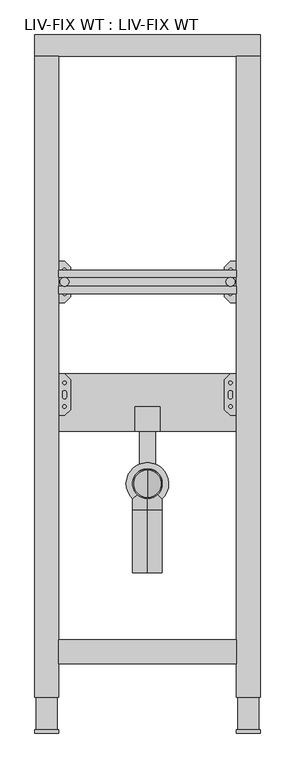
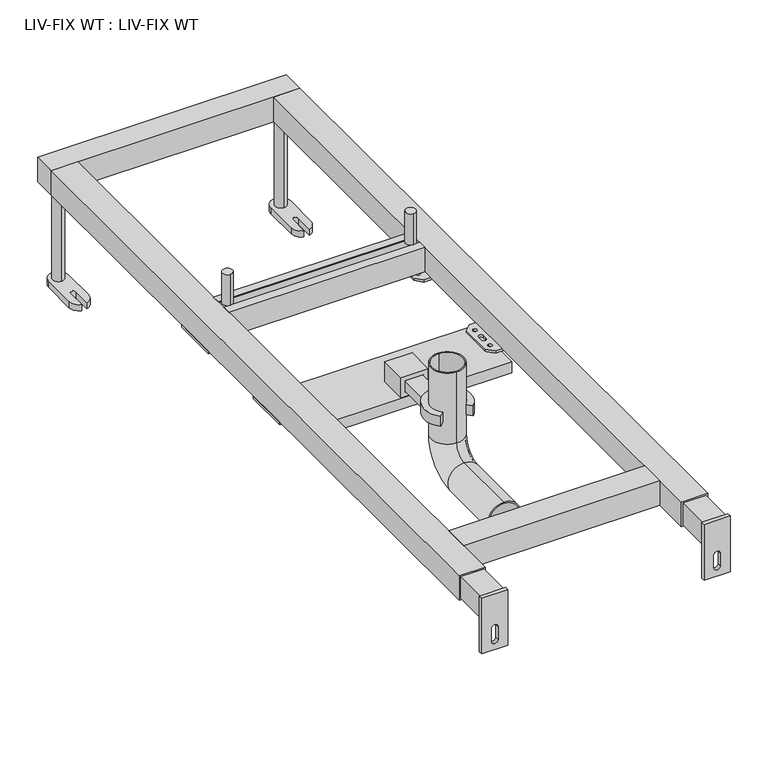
"""IFC4 building model written with IfcOpenShell, lengths in millimetres: flow terminal geometry, LIV-FIX WT : LIV-FIX WT."""

from ifc_helpers import new_model, si_unit, point, frame, frame_2d, origin, origin_with_axes, place, context, project, spatial, polyline, circle_curve, ellipse_curve, trimmed, segment, composite_curve, outline, extrude, source, transform, mapped, element, save
from ifc_brep_helpers import plane_surface, cylinder_surface, revolved_surface, advanced_brep


def liv_fix_wt_liv_fix_wt_083b9d29(model_context):
    return source(origin(), model_context, "Body", "SolidModel", [
        extrude(outline(composite_curve([segment(trimmed(circle_curve(frame_2d((-140.0, 760.0)), 7.5154833), [point((-140.0, 767.5154833))], [point((-140.0, 752.4845167))], False, "CARTESIAN"), True, "CONTINUOUS"), segment(trimmed(circle_curve(frame_2d((-140.0, 760.0)), 7.5154833), [point((-140.0, 752.4845167))], [point((-140.0, 767.5154833))], False, "CARTESIAN"), True, "CONTINUOUS")], self_intersect=False)), frame((0.0, 0.0, 200.0), z_axis=(0.0, 0.0, 1.0), x_axis=(1.0, 0.0, 0.0)), (0.0, 0.0, 1.0), 50.0),
        extrude(outline(composite_curve([segment(trimmed(circle_curve(frame_2d((140.0, 760.0)), 7.5154833), [point((140.0, 767.5154833))], [point((140.0, 752.4845167))], False, "CARTESIAN"), True, "CONTINUOUS"), segment(trimmed(circle_curve(frame_2d((140.0, 760.0)), 7.5154833), [point((140.0, 752.4845167))], [point((140.0, 767.5154833))], False, "CARTESIAN"), True, "CONTINUOUS")], self_intersect=False)), frame((0.0, 0.0, 200.0), z_axis=(0.0, 0.0, 1.0), x_axis=(1.0, 0.0, 0.0)), (0.0, 0.0, 1.0), 50.0),
        extrude(outline(polyline([(740.0, 200.0), (752.4845167, 200.0), (752.4845167, 198.5), (741.5, 198.5), (741.5, 161.5), (778.5, 161.5), (778.5, 198.5), (767.5154833, 198.5), (767.5154833, 200.0), (780.0, 200.0), (780.0, 160.0), (740.0, 160.0), (740.0, 200.0)])), frame((-150.0, 0.0, 0.0), z_axis=(1.0, 0.0, 0.0), x_axis=(0.0, 1.0, 0.0)), (0.0, 0.0, 1.0), 300.0),
        extrude(outline(polyline([(140.0, 725.0), (130.0, 735.0), (130.0, 785.0), (140.0, 795.0), (190.0, 795.0), (190.0, 725.0), (140.0, 725.0)]), holes=[composite_curve([segment(trimmed(circle_curve(frame_2d((175.0, 760.0)), 4.5), [point((175.0, 755.5))], [point((175.0, 764.5))], True, "CARTESIAN"), True, "CONTINUOUS"), segment(trimmed(circle_curve(frame_2d((175.0, 760.0)), 4.5), [point((175.0, 764.5))], [point((175.0, 755.5))], True, "CARTESIAN"), True, "CONTINUOUS")], self_intersect=False), composite_curve([segment(trimmed(circle_curve(frame_2d((175.0, 780.0)), 4.5), [point((175.0, 775.5))], [point((175.0, 784.5))], True, "CARTESIAN"), True, "CONTINUOUS"), segment(trimmed(circle_curve(frame_2d((175.0, 780.0)), 4.5), [point((175.0, 784.5))], [point((175.0, 775.5))], True, "CARTESIAN"), True, "CONTINUOUS")], self_intersect=False), composite_curve([segment(trimmed(circle_curve(frame_2d((175.0, 740.0)), 4.5), [point((175.0, 735.5))], [point((175.0, 744.5))], True, "CARTESIAN"), True, "CONTINUOUS"), segment(trimmed(circle_curve(frame_2d((175.0, 740.0)), 4.5), [point((175.0, 744.5))], [point((175.0, 735.5))], True, "CARTESIAN"), True, "CONTINUOUS")], self_intersect=False), composite_curve([segment(trimmed(circle_curve(frame_2d((140.0, 780.0)), 2.9795218), [point((140.0, 777.0204782))], [point((140.0, 782.9795218))], True, "CARTESIAN"), True, "CONTINUOUS"), segment(trimmed(circle_curve(frame_2d((140.0, 780.0)), 2.9795218), [point((140.0, 782.9795218))], [point((140.0, 777.0204782))], True, "CARTESIAN"), True, "CONTINUOUS")], self_intersect=False), composite_curve([segment(trimmed(circle_curve(frame_2d((140.0, 740.0)), 2.9795218), [point((140.0, 737.0204782))], [point((140.0, 742.9795218))], True, "CARTESIAN"), True, "CONTINUOUS"), segment(trimmed(circle_curve(frame_2d((140.0, 740.0)), 2.9795218), [point((140.0, 742.9795218))], [point((140.0, 737.0204782))], True, "CARTESIAN"), True, "CONTINUOUS")], self_intersect=False), composite_curve([segment(trimmed(circle_curve(frame_2d((140.0, 763.5)), 3.5), [point((143.5, 763.5))], [point((136.5, 763.5))], True, "CARTESIAN"), True, "CONTINUOUS"), segment(polyline([(136.5, 763.5), (136.5, 756.5)]), True, "CONTINUOUS"), segment(trimmed(circle_curve(frame_2d((140.0, 756.5)), 3.5), [point((136.5, 756.5))], [point((143.5, 756.5))], True, "CARTESIAN"), True, "CONTINUOUS"), segment(polyline([(143.5, 756.5), (143.5, 763.5)]), True, "CONTINUOUS")], self_intersect=False)]), frame((0.0, 0.0, 156.0), z_axis=(0.0, 0.0, 1.0), x_axis=(1.0, 0.0, 0.0)), (0.0, 0.0, 1.0), 4.0),
        extrude(outline(polyline([(-140.0, 725.0), (-190.0, 725.0), (-190.0, 795.0), (-140.0, 795.0), (-130.0, 785.0), (-130.0, 735.0), (-140.0, 725.0)]), holes=[composite_curve([segment(trimmed(circle_curve(frame_2d((-175.0, 760.0)), 4.5), [point((-175.0, 755.5))], [point((-175.0, 764.5))], True, "CARTESIAN"), True, "CONTINUOUS"), segment(trimmed(circle_curve(frame_2d((-175.0, 760.0)), 4.5), [point((-175.0, 764.5))], [point((-175.0, 755.5))], True, "CARTESIAN"), True, "CONTINUOUS")], self_intersect=False), composite_curve([segment(trimmed(circle_curve(frame_2d((-175.0, 780.0)), 4.5), [point((-175.0, 775.5))], [point((-175.0, 784.5))], True, "CARTESIAN"), True, "CONTINUOUS"), segment(trimmed(circle_curve(frame_2d((-175.0, 780.0)), 4.5), [point((-175.0, 784.5))], [point((-175.0, 775.5))], True, "CARTESIAN"), True, "CONTINUOUS")], self_intersect=False), composite_curve([segment(trimmed(circle_curve(frame_2d((-175.0, 740.0)), 4.5), [point((-175.0, 735.5))], [point((-175.0, 744.5))], True, "CARTESIAN"), True, "CONTINUOUS"), segment(trimmed(circle_curve(frame_2d((-175.0, 740.0)), 4.5), [point((-175.0, 744.5))], [point((-175.0, 735.5))], True, "CARTESIAN"), True, "CONTINUOUS")], self_intersect=False), composite_curve([segment(trimmed(circle_curve(frame_2d((-140.0, 780.0)), 2.9795218), [point((-140.0, 777.0204782))], [point((-140.0, 782.9795218))], True, "CARTESIAN"), True, "CONTINUOUS"), segment(trimmed(circle_curve(frame_2d((-140.0, 780.0)), 2.9795218), [point((-140.0, 782.9795218))], [point((-140.0, 777.0204782))], True, "CARTESIAN"), True, "CONTINUOUS")], self_intersect=False), composite_curve([segment(trimmed(circle_curve(frame_2d((-140.0, 740.0)), 2.9795218), [point((-140.0, 737.0204782))], [point((-140.0, 742.9795218))], True, "CARTESIAN"), True, "CONTINUOUS"), segment(trimmed(circle_curve(frame_2d((-140.0, 740.0)), 2.9795218), [point((-140.0, 742.9795218))], [point((-140.0, 737.0204782))], True, "CARTESIAN"), True, "CONTINUOUS")], self_intersect=False), composite_curve([segment(polyline([(-143.5, 763.5), (-143.5, 756.5)]), True, "CONTINUOUS"), segment(trimmed(circle_curve(frame_2d((-140.0, 756.5)), 3.5), [point((-143.5, 756.5))], [point((-136.5, 756.5))], True, "CARTESIAN"), True, "CONTINUOUS"), segment(polyline([(-136.5, 756.5), (-136.5, 763.5)]), True, "CONTINUOUS"), segment(trimmed(circle_curve(frame_2d((-140.0, 763.5)), 3.5), [point((-136.5, 763.5))], [point((-143.5, 763.5))], True, "CARTESIAN"), True, "CONTINUOUS")], self_intersect=False)]), frame((0.0, 0.0, 156.0), z_axis=(0.0, 0.0, 1.0), x_axis=(1.0, 0.0, 0.0)), (0.0, 0.0, 1.0), 4.0),
        advanced_brep(
        [(0.0, 270.0, 75.0), (0.0, 270.0, 125.0), (0.0, 270.0, 77.0), (0.0, 270.0, 123.0), (0.0, 375.0, 75.0), (0.0, 375.0, 125.0), (0.0, 445.0, 260.0), (0.0, 395.0, 260.0), (0.0, 443.0, 260.0), (0.0, 397.0, 260.0), (0.0, 395.0, 145.0), (0.0, 445.0, 145.0), (0.0, 375.0, 77.0), (0.0, 375.0, 123.0), (0.0, 397.0, 145.0), (0.0, 443.0, 145.0)],
        [
            (0, 1, circle_curve(frame((0.0, 270.0, 100.0), z_axis=(0.0, -1.0, 0.0), x_axis=(0.0, 0.0, 1.0)), 25.0)),
            (1, 0, circle_curve(frame((0.0, 270.0, 100.0), z_axis=(0.0, -1.0, 0.0), x_axis=(0.0, 0.0, 1.0)), 25.0)),
            (2, 3, circle_curve(frame((0.0, 270.0, 100.0), z_axis=(0.0, 1.0, 0.0), x_axis=(0.0, 0.0, 1.0)), 23.0)),
            (3, 2, circle_curve(frame((0.0, 270.0, 100.0), z_axis=(0.0, 1.0, 0.0), x_axis=(0.0, 0.0, 1.0)), 23.0)),
            (0, 4),
            (4, 5, circle_curve(frame((0.0, 375.0, 100.0), z_axis=(0.0, -1.0, 0.0), x_axis=(0.0, 0.0, 1.0)), 25.0)),
            (5, 1),
            (5, 4, circle_curve(frame((0.0, 375.0, 100.0), z_axis=(0.0, -1.0, 0.0), x_axis=(0.0, 0.0, 1.0)), 25.0)),
            (6, 7, circle_curve(frame((0.0, 420.0, 260.0), z_axis=(0.0, 0.0, 1.0), x_axis=(0.0, -1.0, 0.0)), 25.0)),
            (7, 6, circle_curve(frame((0.0, 420.0, 260.0), z_axis=(0.0, 0.0, 1.0), x_axis=(0.0, -1.0, 0.0)), 25.0)),
            (8, 9, circle_curve(frame((0.0, 420.0, 260.0), z_axis=(0.0, 0.0, -1.0), x_axis=(0.0, -1.0, 0.0)), 23.0)),
            (9, 8, circle_curve(frame((0.0, 420.0, 260.0), z_axis=(0.0, 0.0, -1.0), x_axis=(0.0, -1.0, 0.0)), 23.0)),
            (10, 11, circle_curve(frame((0.0, 420.0, 145.0), z_axis=(0.0, 0.0, 1.0), x_axis=(0.0, -1.0, 0.0)), 25.0)),
            (11, 6),
            (7, 10),
            (11, 10, circle_curve(frame((0.0, 420.0, 145.0), z_axis=(0.0, 0.0, 1.0), x_axis=(0.0, -1.0, 0.0)), 25.0)),
            (10, 5, circle_curve(frame((0.0, 375.0, 145.0), z_axis=(-1.0, 0.0, 0.0), x_axis=(0.0, 0.0, -1.0)), 20.0)),
            (4, 11, circle_curve(frame((0.0, 375.0, 145.0), z_axis=(1.0, 0.0, 0.0), x_axis=(0.0, 0.0, -1.0)), 70.0)),
            (2, 12),
            (12, 13, circle_curve(frame((0.0, 375.0, 100.0), z_axis=(0.0, 1.0, 0.0), x_axis=(0.0, 0.0, 1.0)), 23.0)),
            (13, 3),
            (13, 12, circle_curve(frame((0.0, 375.0, 100.0), z_axis=(0.0, 1.0, 0.0), x_axis=(0.0, 0.0, 1.0)), 23.0)),
            (14, 13, circle_curve(frame((0.0, 375.0, 145.0), z_axis=(-1.0, 0.0, 0.0), x_axis=(0.0, 0.0, -1.0)), 22.0)),
            (12, 15, circle_curve(frame((0.0, 375.0, 145.0), z_axis=(1.0, 0.0, 0.0), x_axis=(0.0, 0.0, -1.0)), 68.0)),
            (15, 14, circle_curve(frame((0.0, 420.0, 145.0), z_axis=(0.0, 0.0, 1.0), x_axis=(0.0, -1.0, 0.0)), 23.0)),
            (14, 15, circle_curve(frame((0.0, 420.0, 145.0), z_axis=(0.0, 0.0, 1.0), x_axis=(0.0, -1.0, 0.0)), 23.0)),
            (15, 8),
            (9, 14),
        ],
        [
            plane_surface(frame((0.0, 270.0, 100.0), z_axis=(0.0, -1.0, 0.0), x_axis=(1.0, 0.0, 0.0))),
            cylinder_surface(frame((0.0, 270.0, 100.0), z_axis=(0.0, -1.0, 0.0), x_axis=(0.0, 0.0, 1.0)), 25.0),
            plane_surface(frame((0.0, 420.0, 260.0), z_axis=(0.0, 0.0, 1.0), x_axis=(1.0, 0.0, 0.0))),
            cylinder_surface(frame((0.0, 420.0, 145.0), z_axis=(0.0, 0.0, -1.0), x_axis=(0.0, -1.0, 0.0)), 25.0),
            revolved_surface(trimmed(ellipse_curve(frame((0.0, 375.0, 100.0), z_axis=(0.0, -1.0, 0.0), x_axis=(0.0, 0.0, 1.0)), 25.0, 25.0), [point((0.0, 375.0, 75.0))], [point((0.0, 375.0, 125.0))], True, "CARTESIAN"), (0.0, 375.0, 145.0), (1.0, 0.0, 0.0)),
            revolved_surface(trimmed(ellipse_curve(frame((0.0, 375.0, 100.0), z_axis=(0.0, -1.0, 0.0), x_axis=(0.0, 0.0, 1.0)), 25.0, 25.0), [point((0.0, 375.0, 125.0))], [point((0.0, 375.0, 75.0))], True, "CARTESIAN"), (0.0, 375.0, 145.0), (1.0, 0.0, 0.0)),
            revolved_surface(polyline([(0.0, 375.0, 123.0), (0.0, 270.0, 123.0)]), (0.0, 270.0, 100.0), (0.0, 1.0, 0.0)),
            revolved_surface(trimmed(ellipse_curve(frame((0.0, 375.0, 100.0), z_axis=(0.0, 1.0, 0.0), x_axis=(0.0, 0.0, 1.0)), 23.0, 23.0), [point((0.0, 375.0, 77.0))], [point((0.0, 375.0, 123.0))], True, "CARTESIAN"), (0.0, 375.0, 145.0), (1.0, 0.0, 0.0)),
            revolved_surface(trimmed(ellipse_curve(frame((0.0, 375.0, 100.0), z_axis=(0.0, 1.0, 0.0), x_axis=(0.0, 0.0, 1.0)), 23.0, 23.0), [point((0.0, 375.0, 123.0))], [point((0.0, 375.0, 77.0))], True, "CARTESIAN"), (0.0, 375.0, 145.0), (1.0, 0.0, 0.0)),
            revolved_surface(polyline([(0.0, 397.0, 260.0), (0.0, 397.0, 145.0)]), (0.0, 420.0, 145.0), (0.0, 0.0, 1.0)),
        ],
        [
            (0, [[1, 2], [3, 4]]),
            (1, [[-1, 5, 6, 7]]),
            (1, [[-2, -7, 8, -5]]),
            (2, [[9, 10], [11, 12]]),
            (3, [[13, 14, -10, 15]]),
            (3, [[16, -15, -9, -14]]),
            (4, [[17, -6, 18, -13]]),
            (5, [[-18, -8, -17, -16]]),
            (6, [[-3, 19, 20, 21]]),
            (6, [[-4, -21, 22, -19]]),
            (7, [[23, -20, 24, 25]]),
            (8, [[-24, -22, -23, 26]]),
            (9, [[-25, 27, -12, 28]]),
            (9, [[-26, -28, -11, -27]]),
        ],
    ),
        extrude(outline(polyline([(149.0, 508.0), (-149.0, 508.0), (-149.0, 605.0), (149.0, 605.0), (149.0, 508.0)])), frame((0.0, 0.0, 138.0), z_axis=(0.0, 0.0, 1.0), x_axis=(1.0, 0.0, 0.0)), (0.0, 0.0, 1.0), 18.0),
        extrude(outline(polyline([(140.0, 535.0), (130.0, 545.0), (130.0, 595.0), (140.0, 605.0), (190.0, 605.0), (190.0, 535.0), (140.0, 535.0)]), holes=[composite_curve([segment(trimmed(circle_curve(frame_2d((175.0, 570.0)), 4.5), [point((175.0, 565.5))], [point((175.0, 574.5))], True, "CARTESIAN"), True, "CONTINUOUS"), segment(trimmed(circle_curve(frame_2d((175.0, 570.0)), 4.5), [point((175.0, 574.5))], [point((175.0, 565.5))], True, "CARTESIAN"), True, "CONTINUOUS")], self_intersect=False), composite_curve([segment(trimmed(circle_curve(frame_2d((175.0, 590.0)), 4.5), [point((175.0, 585.5))], [point((175.0, 594.5))], True, "CARTESIAN"), True, "CONTINUOUS"), segment(trimmed(circle_curve(frame_2d((175.0, 590.0)), 4.5), [point((175.0, 594.5))], [point((175.0, 585.5))], True, "CARTESIAN"), True, "CONTINUOUS")], self_intersect=False), composite_curve([segment(trimmed(circle_curve(frame_2d((175.0, 550.0)), 4.5), [point((175.0, 545.5))], [point((175.0, 554.5))], True, "CARTESIAN"), True, "CONTINUOUS"), segment(trimmed(circle_curve(frame_2d((175.0, 550.0)), 4.5), [point((175.0, 554.5))], [point((175.0, 545.5))], True, "CARTESIAN"), True, "CONTINUOUS")], self_intersect=False), composite_curve([segment(trimmed(circle_curve(frame_2d((140.0, 590.0)), 2.9795218), [point((140.0, 587.0204782))], [point((140.0, 592.9795218))], True, "CARTESIAN"), True, "CONTINUOUS"), segment(trimmed(circle_curve(frame_2d((140.0, 590.0)), 2.9795218), [point((140.0, 592.9795218))], [point((140.0, 587.0204782))], True, "CARTESIAN"), True, "CONTINUOUS")], self_intersect=False), composite_curve([segment(trimmed(circle_curve(frame_2d((140.0, 550.0)), 2.9795218), [point((140.0, 547.0204782))], [point((140.0, 552.9795218))], True, "CARTESIAN"), True, "CONTINUOUS"), segment(trimmed(circle_curve(frame_2d((140.0, 550.0)), 2.9795218), [point((140.0, 552.9795218))], [point((140.0, 547.0204782))], True, "CARTESIAN"), True, "CONTINUOUS")], self_intersect=False), composite_curve([segment(trimmed(circle_curve(frame_2d((140.0, 573.5)), 3.5), [point((143.5, 573.5))], [point((136.5, 573.5))], True, "CARTESIAN"), True, "CONTINUOUS"), segment(polyline([(136.5, 573.5), (136.5, 566.5)]), True, "CONTINUOUS"), segment(trimmed(circle_curve(frame_2d((140.0, 566.5)), 3.5), [point((136.5, 566.5))], [point((143.5, 566.5))], True, "CARTESIAN"), True, "CONTINUOUS"), segment(polyline([(143.5, 566.5), (143.5, 573.5)]), True, "CONTINUOUS")], self_intersect=False)]), frame((0.0, 0.0, 156.0), z_axis=(0.0, 0.0, 1.0), x_axis=(1.0, 0.0, 0.0)), (0.0, 0.0, 1.0), 4.0),
        extrude(outline(polyline([(-140.0, 535.0), (-190.0, 535.0), (-190.0, 605.0), (-140.0, 605.0), (-130.0, 595.0), (-130.0, 545.0), (-140.0, 535.0)]), holes=[composite_curve([segment(trimmed(circle_curve(frame_2d((-175.0, 570.0)), 4.5), [point((-175.0, 565.5))], [point((-175.0, 574.5))], True, "CARTESIAN"), True, "CONTINUOUS"), segment(trimmed(circle_curve(frame_2d((-175.0, 570.0)), 4.5), [point((-175.0, 574.5))], [point((-175.0, 565.5))], True, "CARTESIAN"), True, "CONTINUOUS")], self_intersect=False), composite_curve([segment(trimmed(circle_curve(frame_2d((-175.0, 590.0)), 4.5), [point((-175.0, 585.5))], [point((-175.0, 594.5))], True, "CARTESIAN"), True, "CONTINUOUS"), segment(trimmed(circle_curve(frame_2d((-175.0, 590.0)), 4.5), [point((-175.0, 594.5))], [point((-175.0, 585.5))], True, "CARTESIAN"), True, "CONTINUOUS")], self_intersect=False), composite_curve([segment(trimmed(circle_curve(frame_2d((-175.0, 550.0)), 4.5), [point((-175.0, 545.5))], [point((-175.0, 554.5))], True, "CARTESIAN"), True, "CONTINUOUS"), segment(trimmed(circle_curve(frame_2d((-175.0, 550.0)), 4.5), [point((-175.0, 554.5))], [point((-175.0, 545.5))], True, "CARTESIAN"), True, "CONTINUOUS")], self_intersect=False), composite_curve([segment(trimmed(circle_curve(frame_2d((-140.0, 590.0)), 2.9795218), [point((-140.0, 587.0204782))], [point((-140.0, 592.9795218))], True, "CARTESIAN"), True, "CONTINUOUS"), segment(trimmed(circle_curve(frame_2d((-140.0, 590.0)), 2.9795218), [point((-140.0, 592.9795218))], [point((-140.0, 587.0204782))], True, "CARTESIAN"), True, "CONTINUOUS")], self_intersect=False), composite_curve([segment(trimmed(circle_curve(frame_2d((-140.0, 550.0)), 2.9795218), [point((-140.0, 547.0204782))], [point((-140.0, 552.9795218))], True, "CARTESIAN"), True, "CONTINUOUS"), segment(trimmed(circle_curve(frame_2d((-140.0, 550.0)), 2.9795218), [point((-140.0, 552.9795218))], [point((-140.0, 547.0204782))], True, "CARTESIAN"), True, "CONTINUOUS")], self_intersect=False), composite_curve([segment(polyline([(-143.5, 573.5), (-143.5, 566.5)]), True, "CONTINUOUS"), segment(trimmed(circle_curve(frame_2d((-140.0, 566.5)), 3.5), [point((-143.5, 566.5))], [point((-136.5, 566.5))], True, "CARTESIAN"), True, "CONTINUOUS"), segment(polyline([(-136.5, 566.5), (-136.5, 573.5)]), True, "CONTINUOUS"), segment(trimmed(circle_curve(frame_2d((-140.0, 573.5)), 3.5), [point((-136.5, 573.5))], [point((-143.5, 573.5))], True, "CARTESIAN"), True, "CONTINUOUS")], self_intersect=False)]), frame((0.0, 0.0, 156.0), z_axis=(0.0, 0.0, 1.0), x_axis=(1.0, 0.0, 0.0)), (0.0, 0.0, 1.0), 4.0),
        extrude(outline(composite_curve([segment(trimmed(circle_curve(frame_2d((-170.0, 1156.0)), 8.75), [point((-170.0, 1147.25))], [point((-170.0, 1164.75))], False, "CARTESIAN"), True, "CONTINUOUS"), segment(trimmed(circle_curve(frame_2d((-170.0, 1156.0)), 8.75), [point((-170.0, 1164.75))], [point((-170.0, 1147.25))], False, "CARTESIAN"), True, "CONTINUOUS")], self_intersect=False)), frame((0.0, 0.0, 10.0), z_axis=(0.0, 0.0, 1.0), x_axis=(1.0, 0.0, 0.0)), (0.0, 0.0, 1.0), 150.0),
        extrude(outline(composite_curve([segment(trimmed(circle_curve(frame_2d((170.0, 1156.0)), 8.75), [point((170.0, 1147.25))], [point((170.0, 1164.75))], False, "CARTESIAN"), True, "CONTINUOUS"), segment(trimmed(circle_curve(frame_2d((170.0, 1156.0)), 8.75), [point((170.0, 1164.75))], [point((170.0, 1147.25))], False, "CARTESIAN"), True, "CONTINUOUS")], self_intersect=False)), frame((0.0, 0.0, 10.0), z_axis=(0.0, 0.0, 1.0), x_axis=(1.0, 0.0, 0.0)), (0.0, 0.0, 1.0), 150.0),
        extrude(outline(composite_curve([segment(trimmed(circle_curve(frame_2d((-170.0, 1156.0)), 15.0), [point((-185.0, 1156.0))], [point((-155.0, 1156.0))], False, "CARTESIAN"), True, "CONTINUOUS"), segment(polyline([(-155.0, 1156.0), (-155.0, 1102.0)]), True, "CONTINUOUS"), segment(trimmed(circle_curve(frame_2d((-170.0, 1102.0)), 15.0), [point((-155.0, 1102.0))], [point((-166.0, 1087.5431677))], False, "CARTESIAN"), True, "CONTINUOUS"), segment(polyline([(-166.0, 1087.5431677), (-166.0, 1116.4568323)]), True, "CONTINUOUS"), segment(trimmed(circle_curve(frame_2d((-170.0, 1116.4568323)), 4.0), [point((-166.0, 1116.4568323))], [point((-174.0, 1116.4568323))], True, "CARTESIAN"), True, "CONTINUOUS"), segment(polyline([(-174.0, 1116.4568323), (-174.0, 1087.5431677)]), True, "CONTINUOUS"), segment(trimmed(circle_curve(frame_2d((-170.0, 1102.0)), 15.0), [point((-174.0, 1087.5431677))], [point((-185.0, 1102.0))], False, "CARTESIAN"), True, "CONTINUOUS"), segment(polyline([(-185.0, 1102.0), (-185.0, 1156.0)]), True, "CONTINUOUS")], self_intersect=False)), origin_with_axes(), (0.0, 0.0, 1.0), 10.0),
        extrude(outline(composite_curve([segment(polyline([(185.0, 1156.0), (185.0, 1102.0)]), True, "CONTINUOUS"), segment(trimmed(circle_curve(frame_2d((170.0, 1102.0)), 15.0), [point((185.0, 1102.0))], [point((174.0, 1087.5431677))], False, "CARTESIAN"), True, "CONTINUOUS"), segment(polyline([(174.0, 1087.5431677), (174.0, 1116.4568323)]), True, "CONTINUOUS"), segment(trimmed(circle_curve(frame_2d((170.0, 1116.4568323)), 4.0), [point((174.0, 1116.4568323))], [point((166.0, 1116.4568323))], True, "CARTESIAN"), True, "CONTINUOUS"), segment(polyline([(166.0, 1116.4568323), (166.0, 1087.5431677)]), True, "CONTINUOUS"), segment(trimmed(circle_curve(frame_2d((170.0, 1102.0)), 15.0), [point((166.0, 1087.5431677))], [point((155.0, 1102.0))], False, "CARTESIAN"), True, "CONTINUOUS"), segment(polyline([(155.0, 1102.0), (155.0, 1156.0)]), True, "CONTINUOUS"), segment(trimmed(circle_curve(frame_2d((170.0, 1156.0)), 15.0), [point((155.0, 1156.0))], [point((185.0, 1156.0))], False, "CARTESIAN"), True, "CONTINUOUS")], self_intersect=False)), origin_with_axes(), (0.0, 0.0, 1.0), 10.0),
        extrude(outline(polyline([(-187.5, 549.0), (-152.5, 549.0), (-152.5, 6.0), (-187.5, 6.0), (-187.5, 549.0)])), frame((0.0, 0.0, 162.5), z_axis=(0.0, 0.0, 1.0), x_axis=(1.0, 0.0, 0.0)), (0.0, 0.0, 1.0), 35.0),
        extrude(outline(polyline([(152.4841074, 549.0), (187.4841074, 549.0), (187.4841074, 6.0), (152.4841074, 6.0), (152.4841074, 549.0)])), frame((0.0, 0.0, 162.5), z_axis=(0.0, 0.0, 1.0), x_axis=(1.0, 0.0, 0.0)), (0.0, 0.0, 1.0), 35.0),
        extrude(outline(polyline([(200.0, 190.0), (200.0, 150.0), (110.0, 150.0), (110.0, 190.0), (200.0, 190.0)]), holes=[composite_curve([segment(trimmed(circle_curve(frame_2d((145.0, 170.0)), 5.0), [point((145.0, 165.0))], [point((145.0, 175.0))], True, "CARTESIAN"), True, "CONTINUOUS"), segment(polyline([(145.0, 175.0), (125.0, 175.0)]), True, "CONTINUOUS"), segment(trimmed(circle_curve(frame_2d((125.0, 170.0)), 5.0), [point((125.0, 175.0))], [point((125.0, 165.0))], True, "CARTESIAN"), True, "CONTINUOUS"), segment(polyline([(125.0, 165.0), (145.0, 165.0)]), True, "CONTINUOUS")], self_intersect=False)]), frame((0.0, 0.0, 0.0), z_axis=(0.0, 1.0, 0.0), x_axis=(0.0, 0.0, 1.0)), (0.0, 0.0, 1.0), 6.0),
        extrude(outline(polyline([(200.0, -150.0), (200.0, -190.0), (110.0, -190.0), (110.0, -150.0), (200.0, -150.0)]), holes=[composite_curve([segment(trimmed(circle_curve(frame_2d((145.0, -170.0)), 5.0), [point((145.0, -175.0))], [point((145.0, -165.0))], True, "CARTESIAN"), True, "CONTINUOUS"), segment(polyline([(145.0, -165.0), (125.0, -165.0)]), True, "CONTINUOUS"), segment(trimmed(circle_curve(frame_2d((125.0, -170.0)), 5.0), [point((125.0, -165.0))], [point((125.0, -175.0))], True, "CARTESIAN"), True, "CONTINUOUS"), segment(polyline([(125.0, -175.0), (145.0, -175.0)]), True, "CONTINUOUS")], self_intersect=False)]), frame((0.0, 0.0, 0.0), z_axis=(0.0, 1.0, 0.0), x_axis=(0.0, 0.0, 1.0)), (0.0, 0.0, 1.0), 6.0),
        extrude(outline(polyline([(150.0, 157.0), (150.0, 117.0), (-150.0, 117.0), (-150.0, 157.0), (150.0, 157.0)])), frame((0.0, 0.0, 160.0), z_axis=(0.0, 0.0, 1.0), x_axis=(1.0, 0.0, 0.0)), (0.0, 0.0, 1.0), 40.0),
        extrude(outline(polyline([(-150.0, 60.0), (-190.0, 60.0), (-190.0, 1140.0), (-150.0, 1140.0), (-150.0, 60.0)])), frame((0.0, 0.0, 160.0), z_axis=(0.0, 0.0, 1.0), x_axis=(1.0, 0.0, 0.0)), (0.0, 0.0, 1.0), 40.0),
        extrude(outline(polyline([(190.0, 60.0), (150.0, 60.0), (150.0, 1140.0), (190.0, 1140.0), (190.0, 60.0)])), frame((0.0, 0.0, 160.0), z_axis=(0.0, 0.0, 1.0), x_axis=(1.0, 0.0, 0.0)), (0.0, 0.0, 1.0), 40.0),
        extrude(outline(polyline([(190.0, 1176.0), (190.0, 1140.0), (-190.0, 1140.0), (-190.0, 1176.0), (190.0, 1176.0)])), frame((0.0, 0.0, 160.0), z_axis=(0.0, 0.0, 1.0), x_axis=(1.0, 0.0, 0.0)), (0.0, 0.0, 1.0), 40.0),
        extrude(outline(composite_curve([segment(polyline([(-17.8270587, 401.4188677), (-24.8992187, 394.3467077)]), True, "CONTINUOUS"), segment(trimmed(circle_curve(frame_2d((0.0, 420.0)), 35.75), [point((-24.8992187, 394.3467077))], [point((24.8992187, 394.3467077))], False, "CARTESIAN"), True, "CONTINUOUS"), segment(polyline([(24.8992187, 394.3467077), (17.8270587, 401.4188677)]), True, "CONTINUOUS"), segment(trimmed(circle_curve(frame_2d((0.0, 420.0)), 25.75), [point((17.8270587, 401.4188677))], [point((-17.8270587, 401.4188677))], True, "CARTESIAN"), True, "CONTINUOUS")], self_intersect=False)), frame((0.0, 0.0, 180.75), z_axis=(0.0, 0.0, 1.0), x_axis=(1.0, 0.0, 0.0)), (0.0, 0.0, 1.0), 16.25),
        extrude(outline(polyline([(-13.5, 550.0), (13.5, 550.0), (13.5, 445.7552373), (-13.5, 445.7552373), (-13.5, 550.0)])), frame((0.0, 0.0, 164.75), z_axis=(0.0, 0.0, 1.0), x_axis=(1.0, 0.0, 0.0)), (0.0, 0.0, 1.0), 16.0),
        extrude(outline(polyline([(189.5, 20.9285173), (189.5, -20.5714827), (156.0, -20.5714827), (156.0, 20.9285173), (189.5, 20.9285173)]), holes=[polyline([(182.0, 13.75), (163.5, 13.75), (163.5, -13.75), (182.0, -13.75), (182.0, 13.75)])]), frame((0.0, 508.0, 0.0), z_axis=(0.0, 1.0, 0.0), x_axis=(0.0, 0.0, 1.0)), (0.0, 0.0, 1.0), 42.0),
    ])


if __name__ == "__main__":
    model = new_model("IFC4")
    model_context = context("Model", 3, world=origin())
    ifc_project = project(units=[si_unit("LENGTHUNIT", "METRE", prefix="MILLI")], contexts=[model_context])
    site = spatial("IfcSite", under=ifc_project)
    building = spatial("IfcBuilding", under=site)
    placement = place(None, origin())
    liv_fix_wt_liv_fix_wt_shape = liv_fix_wt_liv_fix_wt_083b9d29(model_context)
    element("IfcFlowTerminal", 1, ObjectType="LIV-FIX WT : LIV-FIX WT", at=placement, inside=building, context=model_context, shape_type="MappedRepresentation", body=[
        mapped(liv_fix_wt_liv_fix_wt_shape, transform((0.0, 0.0, 0.0), x_axis=(1.0, 0.0, 0.0), y_axis=(0.0, 1.0, 0.0), z_axis=(0.0, 0.0, 1.0))),
    ])
    save(model, "model.ifc")
